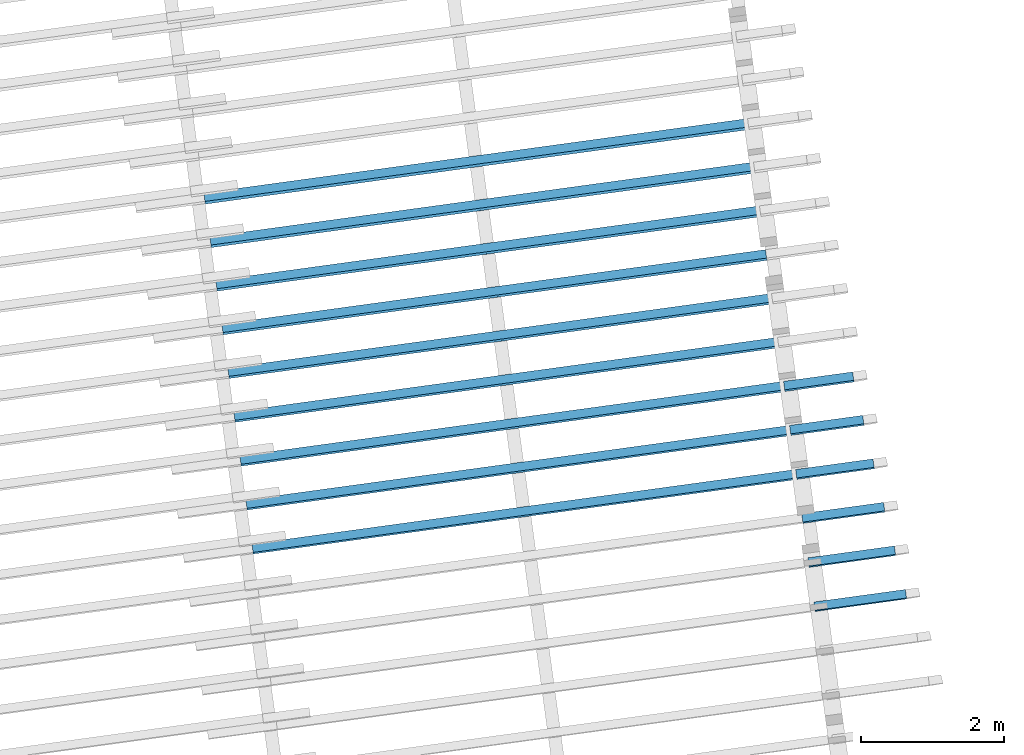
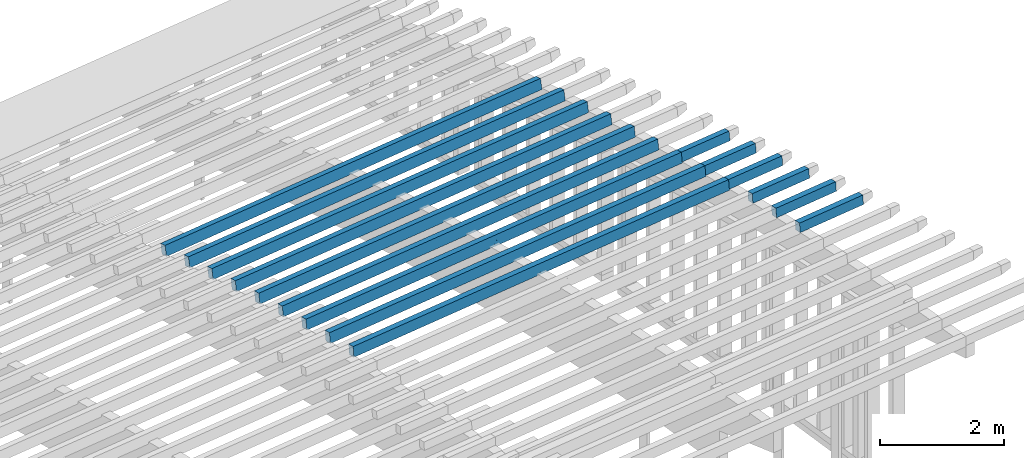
# One storey, part 12 of 18: 15 building element parts, 12 elements without a shape of their own.
"""IFC2X3 building model written with IfcOpenShell, lengths in metres."""

from ifc_helpers import new_model, entity, si_unit, converted_unit, derived_unit, money_unit, direction, frame, origin_with_axes, place, context, subcontext, project, spatial, faceted_brep, material, type_object, element, aggregate, save


model = new_model("IFC2X3")

# Units and contexts
model_context = context("Model", 3, precision=1e-05, world=origin_with_axes(), true_north=direction((0.0, 1.0)))
body_context = subcontext(model_context, "Body", "Model", "MODEL_VIEW")
ifc_project = project(units=[si_unit("LENGTHUNIT", "METRE"), si_unit("AREAUNIT", "SQUARE_METRE"), si_unit("VOLUMEUNIT", "CUBIC_METRE"), converted_unit("PLANEANGLEUNIT", "DEGREE", entity("IfcPlaneAngleMeasure", 0.0174532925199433), si_unit("PLANEANGLEUNIT", "RADIAN"), dimensions=[0, 0, 0, 0, 0, 0, 0]), money_unit("EUR"), converted_unit("TIMEUNIT", "Year", entity("IfcTimeMeasure", 31557600.0), si_unit("TIMEUNIT", "SECOND"), dimensions=[0, 0, 1, 0, 0, 0, 0]), si_unit("MASSUNIT", "GRAM", prefix="KILO"), si_unit("THERMODYNAMICTEMPERATUREUNIT", "DEGREE_CELSIUS"), si_unit("LUMINOUSINTENSITYUNIT", "LUMEN"), si_unit("ENERGYUNIT", "JOULE", prefix="MEGA"), derived_unit("THERMALCONDUCTANCEUNIT", [(si_unit("POWERUNIT", "WATT"), 1), (si_unit("LENGTHUNIT", "METRE"), -1), (si_unit("THERMODYNAMICTEMPERATUREUNIT", "KELVIN"), -1)]), derived_unit("SPECIFICHEATCAPACITYUNIT", [(si_unit("ENERGYUNIT", "JOULE"), 1), (si_unit("MASSUNIT", "GRAM", prefix="KILO"), -1), (si_unit("THERMODYNAMICTEMPERATUREUNIT", "KELVIN"), -1)]), derived_unit("MASSDENSITYUNIT", [(si_unit("MASSUNIT", "GRAM", prefix="KILO"), 1), (si_unit("VOLUMEUNIT", "CUBIC_METRE"), -1)])], contexts=[model_context])

# Site, building, storey
site_placement = place(None, origin_with_axes())
site = spatial("IfcSite", under=ifc_project, at=site_placement, Name="Gelände", CompositionType="ELEMENT")
building_placement = place(site_placement, origin_with_axes())
building = spatial("IfcBuilding", under=site, at=building_placement, Name="Gebäude", CompositionType="ELEMENT")
storey_placement = place(building_placement, frame((0.0, 0.0, 5.5), z_axis=(0.0, 0.0, 1.0), x_axis=(1.0, 0.0, 0.0)))
storey = spatial("IfcBuildingStorey", under=building, at=storey_placement, Name="OG", CompositionType="ELEMENT", Elevation=5.5)

# Beam, building element part
beam_type_1 = type_object("IfcBeamType", Name="Verschiedene Strukturen - 4 Segmente - 120 x 200 x 10110 (970+7659+1291+190)", PredefinedType="NOTDEFINED")
beam_1_placement = place(storey_placement, frame((104.7196111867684, -145.7532908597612, 4.791438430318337), z_axis=(0.0, 0.0, 1.0), x_axis=(0.13571118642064, -0.9907484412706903, 0.0)))
beam_1 = element("IfcBeam", 1, at=beam_1_placement, inside=storey, type_object=beam_type_1, Name="Unterzug-031")
ifc_material = material(Name="Bauholz")
building_element_part_1_placement = place(beam_1_placement, origin_with_axes())
building_element_part_1 = element("IfcBuildingElementPart", 2, at=building_element_part_1_placement, material=ifc_material, Name="Bauholz", context=body_context, shape_type="Brep", body=[
    faceted_brep([(0.0742730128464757, 9.91993509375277, -0.1745953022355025), (0.07427301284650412, 8.62917108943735, -0.1745953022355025), (-0.04533877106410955, 8.62917108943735, -0.1842400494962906), (-0.04533877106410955, 9.91993509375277, -0.1842400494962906), (0.05980589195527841, 9.91993509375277, 0.004822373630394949), (0.05980589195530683, 8.629171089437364, 0.004822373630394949), (-0.05980589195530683, 8.62917108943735, -0.004822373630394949), (-0.05980589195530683, 9.919935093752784, -0.004822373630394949)], [[[0, 1, 2, 3]], [[4, 5, 1, 0]], [[1, 5, 6, 2]], [[3, 2, 6, 7]], [[7, 4, 0, 3]], [[7, 6, 5, 4]]]),
])
aggregate(beam_1, [building_element_part_1])

beam_type_2 = type_object("IfcBeamType", Name="Verschiedene Strukturen - 4 Segmente - 120 x 200 x 10040 (970+7659+1220+190)", PredefinedType="NOTDEFINED")
beam_2_placement = place(storey_placement, frame((104.6350613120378, -145.1360413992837, 4.738673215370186), z_axis=(0.0, 0.0, 1.0), x_axis=(0.1357111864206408, -0.9907484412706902, 0.0)))
beam_2 = element("IfcBeam", 3, at=beam_2_placement, inside=storey, type_object=beam_type_2, Name="Unterzug-031")
building_element_part_2_placement = place(beam_2_placement, origin_with_axes())
building_element_part_2 = element("IfcBuildingElementPart", 4, at=building_element_part_2_placement, material=ifc_material, Name="Bauholz", context=body_context, shape_type="Brep", body=[
    faceted_brep([(0.07579379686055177, 8.62917495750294, -0.173940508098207), (-0.04372926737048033, 8.62917495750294, -0.1846286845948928), (-0.04372926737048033, 9.849566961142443, -0.1846286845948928), (0.07579379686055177, 9.849566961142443, -0.173940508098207), (0.05976153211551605, 8.62917495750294, 0.005344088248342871), (-0.05976153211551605, 8.62917495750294, -0.005344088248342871), (-0.05976153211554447, 9.849566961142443, -0.005344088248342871), (0.05976153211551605, 9.849566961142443, 0.005344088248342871)], [[[0, 1, 2, 3]], [[4, 5, 1, 0]], [[1, 5, 6, 2]], [[7, 3, 2, 6]], [[4, 0, 3, 7]], [[5, 4, 7, 6]]]),
])
aggregate(beam_2, [building_element_part_2])

beam_type_3 = type_object("IfcBeamType", Name="Verschiedene Strukturen - 4 Segmente - 120 x 200 x 9973 (970+7659+1153+190)", PredefinedType="NOTDEFINED")
beam_3_placement = place(storey_placement, frame((104.5505891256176, -144.5193590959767, 4.679531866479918), z_axis=(0.0, 0.0, 1.0), x_axis=(0.1357111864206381, -0.9907484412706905, 0.0)))
beam_3 = element("IfcBeam", 5, at=beam_3_placement, inside=storey, type_object=beam_type_3, Name="Unterzug-031")
building_element_part_3_placement = place(beam_3_placement, origin_with_axes())
building_element_part_3 = element("IfcBuildingElementPart", 6, at=building_element_part_3_placement, material=ifc_material, Name="Bauholz", context=body_context, shape_type="Brep", body=[
    faceted_brep([(0.07755066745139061, 8.629176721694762, -0.1731643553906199), (-0.04185807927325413, 8.629176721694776, -0.1850618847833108), (-0.04185807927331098, 9.782671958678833, -0.1850618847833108), (0.07755066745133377, 9.782671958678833, -0.1731643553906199), (0.05970437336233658, 8.629176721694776, 0.005948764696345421), (-0.05970437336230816, 8.629176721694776, -0.005948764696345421), (-0.05970437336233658, 9.782671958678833, -0.005948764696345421), (0.05970437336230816, 9.782671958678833, 0.005948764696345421)], [[[0, 1, 2, 3]], [[4, 5, 1, 0]], [[1, 5, 6, 2]], [[7, 3, 2, 6]], [[4, 0, 3, 7]], [[5, 4, 7, 6]]]),
])
aggregate(beam_3, [building_element_part_3])

# Beam, building element parts
beam_type_4 = type_object("IfcBeamType", Name="Verschiedene Strukturen - 4 Segmente - 120 x 200 x 9909 (970+7659+1090+190)", PredefinedType="NOTDEFINED")
beam_4_placement = place(storey_placement, frame((104.4662017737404, -143.9032961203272, 4.614089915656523), z_axis=(0.0, 0.0, 1.0), x_axis=(0.1357111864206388, -0.9907484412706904, 0.0)))
beam_4 = element("IfcBeam", 7, at=beam_4_placement, inside=storey, type_object=beam_type_4, Name="Unterzug-031")
building_element_part_4_placement = place(beam_4_placement, origin_with_axes())
building_element_part_4 = element("IfcBuildingElementPart", 8, at=building_element_part_4_placement, material=ifc_material, Name="Bauholz", context=body_context, shape_type="Brep", body=[
    faceted_brep([(-0.0420718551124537, 0.9699999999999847, -0.1656931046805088), (-0.04207211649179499, 1.451946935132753, -0.1656931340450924), (-0.0596296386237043, 1.451946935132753, -0.006659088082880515), (-0.05962937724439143, 0.9699999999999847, -0.006659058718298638), (-0.05963765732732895, 0.9699999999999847, -0.006584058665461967), (-0.05963792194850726, 4.732937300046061, -0.006584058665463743), (-0.04207993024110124, 4.732937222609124, -0.1656199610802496), (-0.04207992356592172, 4.852937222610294, -0.1656200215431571), (-0.05963739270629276, 4.852937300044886, -0.006584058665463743), (-0.05963765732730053, 8.62917672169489, -0.006584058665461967), (-0.03769079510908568, 8.62917672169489, -0.2053762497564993), (-0.03769079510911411, 0.9699999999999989, -0.2053762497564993), (-0.04175375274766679, 0.9699999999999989, -0.1656573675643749), (-0.04175375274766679, 1.451946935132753, -0.1656573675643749), (-0.05961653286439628, 1.451946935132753, -0.006657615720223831), (-0.05961653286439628, 0.9699999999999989, -0.006657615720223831), (0.08158451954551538, 0.9699999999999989, -0.1922081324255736), (0.05963765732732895, 0.9700000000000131, 0.006584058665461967), (0.05963792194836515, 4.852939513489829, 0.006584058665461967), (0.05963765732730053, 8.629176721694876, 0.006584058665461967), (0.05963739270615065, 4.732939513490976, 0.006584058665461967), (-0.04138156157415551, 4.732937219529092, -0.1655391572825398), (-0.04138103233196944, 4.852937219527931, -0.1655391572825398), (0.0815845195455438, 8.629176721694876, -0.1922081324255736), (0.07719537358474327, 4.852939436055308, -0.1524517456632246), (0.07719536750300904, 4.732939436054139, -0.1524516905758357), (0.07682466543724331, 4.852939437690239, -0.1524907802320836), (0.07682413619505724, 4.7329394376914, -0.1524907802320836)], [[[0, 1, 2, 3, 4, 5, 6, 7, 8, 9, 10, 11]], [[12, 13, 1, 0]], [[13, 14, 2, 1]], [[14, 15, 3, 2]], [[3, 15, 12, 0, 11, 16, 17, 4]], [[18, 19, 9, 8, 5, 4, 17, 20]], [[6, 5, 21]], [[6, 21, 22, 7]], [[8, 7, 22]], [[23, 10, 9, 19]], [[11, 10, 23, 16]], [[14, 13, 12, 15]], [[17, 16, 23, 19, 18, 24, 25, 20]], [[8, 22, 21, 5]], [[26, 18, 20, 27]], [[24, 18, 26]], [[26, 27, 25, 24]], [[20, 25, 27]]]),
])
building_element_part_5_placement = place(beam_4_placement, origin_with_axes())
building_element_part_5 = element("IfcBuildingElementPart", 9, at=building_element_part_5_placement, material=ifc_material, Name="Bauholz", context=body_context, shape_type="Brep", body=[
    faceted_brep([(0.07938983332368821, 8.62917672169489, -0.1723289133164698), (-0.0398854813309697, 8.62917672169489, -0.1854970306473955), (-0.03988548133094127, 9.719241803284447, -0.1854970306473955), (0.07938983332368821, 9.719241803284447, -0.1723289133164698), (0.05963765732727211, 8.62917672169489, 0.006584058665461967), (-0.05963765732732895, 8.62917672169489, -0.006584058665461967), (-0.05963765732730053, 9.719241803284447, -0.006584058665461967), (0.05963765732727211, 9.719241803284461, 0.006584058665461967)], [[[0, 1, 2, 3]], [[4, 5, 1, 0]], [[1, 5, 6, 2]], [[7, 3, 2, 6]], [[4, 0, 3, 7]], [[5, 4, 7, 6]]]),
])
aggregate(beam_4, [building_element_part_4, building_element_part_5])

beam_type_5 = type_object("IfcBeamType", Name="Verschiedene Strukturen - 4 Segmente - 120 x 200 x 9849 (970+7659+1030+190)", PredefinedType="NOTDEFINED")
beam_5_placement = place(storey_placement, frame((104.3819138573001, -143.2879590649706, 4.54227047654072), z_axis=(0.0, 0.0, 1.0), x_axis=(0.1357111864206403, -0.9907484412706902, 0.0)))
beam_5 = element("IfcBeam", 10, at=beam_5_placement, inside=storey, type_object=beam_type_5, Name="Unterzug-031")
building_element_part_6_placement = place(beam_5_placement, origin_with_axes())
building_element_part_6 = element("IfcBuildingElementPart", 11, at=building_element_part_6_placement, material=ifc_material, Name="Bauholz", context=body_context, shape_type="Brep", body=[
    faceted_brep([(-0.03568171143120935, 0.9699999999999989, -0.2057348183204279), (-0.04045859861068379, 0.9699999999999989, -0.1660283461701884), (-0.04045885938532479, 1.451946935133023, -0.1660283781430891), (-0.05957510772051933, 1.451946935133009, -0.007174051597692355), (-0.0595707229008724, 4.732937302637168, -0.007166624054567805), (-0.0404591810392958, 4.732937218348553, -0.1660235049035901), (-0.04045917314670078, 4.852937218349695, -0.1660235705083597), (-0.05957019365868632, 4.852937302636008, -0.007166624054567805), (-0.05957045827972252, 8.629176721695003, -0.007166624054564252), (-0.03568171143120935, 8.629176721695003, -0.2057348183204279), (0.05957045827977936, 0.9699999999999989, 0.007166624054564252), (-0.05957510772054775, 0.9700000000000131, -0.007174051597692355), (-0.04010373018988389, 0.9699999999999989, -0.1659848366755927), (0.08345920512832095, 0.9699999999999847, -0.1914015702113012), (-0.04010373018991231, 1.451946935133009, -0.1659848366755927), (0.05957019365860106, 4.732939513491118, 0.007166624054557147), (0.05957072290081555, 4.852939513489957, 0.007166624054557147), (0.05957045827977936, 8.629176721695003, 0.007166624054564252), (-0.03972781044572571, 4.732937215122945, -0.165931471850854), (-0.03972728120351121, 4.852937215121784, -0.165931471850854), (0.08345920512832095, 8.629176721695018, -0.1914015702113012), (0.07868165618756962, 4.852939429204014, -0.1516895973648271), (0.07868164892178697, 4.732939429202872, -0.1516895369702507), (0.07839193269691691, 4.852939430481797, -0.1517231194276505), (0.07839140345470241, 4.732939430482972, -0.1517231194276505)], [[[0, 1, 2, 3, 4, 5, 6, 7, 8, 9]], [[10, 11, 12, 1, 0, 13]], [[12, 14, 2, 1]], [[2, 14, 3]], [[7, 4, 3, 11, 10, 15, 16, 17, 8]], [[5, 4, 18]], [[5, 18, 19, 6]], [[7, 6, 19]], [[20, 9, 8, 17]], [[0, 9, 20, 13]], [[3, 14, 12, 11]], [[10, 13, 20, 17, 16, 21, 22, 15]], [[7, 19, 18, 4]], [[23, 16, 15, 24]], [[21, 16, 23]], [[23, 24, 22, 21]], [[15, 22, 24]]]),
])
building_element_part_7_placement = place(beam_5_placement, origin_with_axes())
building_element_part_7 = element("IfcBuildingElementPart", 12, at=building_element_part_7_placement, material=ifc_material, Name="Bauholz", context=body_context, shape_type="Brep", body=[
    faceted_brep([(0.08107033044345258, 8.629176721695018, -0.1715447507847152), (-0.03807058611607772, 8.629176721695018, -0.1858779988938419), (-0.03807058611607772, 9.659267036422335, -0.1858779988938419), (0.08107033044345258, 9.659267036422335, -0.1715447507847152), (0.05957045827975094, 8.629176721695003, 0.007166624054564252), (-0.05957045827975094, 8.629176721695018, -0.007166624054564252), (-0.05957045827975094, 9.659267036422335, -0.007166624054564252), (0.05957045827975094, 9.659267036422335, 0.007166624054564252)], [[[0, 1, 2, 3]], [[4, 5, 1, 0]], [[1, 5, 6, 2]], [[7, 3, 2, 6]], [[4, 0, 3, 7]], [[5, 4, 7, 6]]]),
])
aggregate(beam_5, [building_element_part_6, building_element_part_7])

beam_type_6 = type_object("IfcBeamType", Name="Verschiedene Strukturen - 4 Segmente - 120 x 200 x 9793 (970+7659+974+190)", PredefinedType="NOTDEFINED")
beam_6_placement = place(storey_placement, frame((104.2977254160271, -142.6733482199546, 4.46423359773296), z_axis=(0.0, 0.0, 1.0), x_axis=(0.135711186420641, -0.9907484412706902, 0.0)))
beam_6 = element("IfcBeam", 13, at=beam_6_placement, inside=storey, type_object=beam_type_6, Name="Unterzug-031")
building_element_part_8_placement = place(beam_6_placement, origin_with_axes())
building_element_part_8 = element("IfcBuildingElementPart", 14, at=building_element_part_8_placement, material=ifc_material, Name="Bauholz", context=body_context, shape_type="Brep", body=[
    faceted_brep([(-0.0335253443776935, 0.9699999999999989, -0.2060971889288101), (-0.03872322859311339, 0.9700000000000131, -0.1664012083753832), (-0.03872348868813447, 1.451946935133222, -0.1664012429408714), (-0.05950261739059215, 1.451946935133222, -0.007755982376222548), (-0.05949240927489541, 4.732937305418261, -0.007790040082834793), (-0.03871846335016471, 4.732937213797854, -0.1664376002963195), (-0.03871845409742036, 4.852937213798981, -0.1664376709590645), (-0.05949188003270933, 4.8529373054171, -0.007790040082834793), (-0.05949214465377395, 8.629176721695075, -0.00779004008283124), (-0.03352534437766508, 8.629176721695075, -0.2060971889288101), (0.05949214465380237, 0.9700000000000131, 0.00779004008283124), (-0.05950261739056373, 0.9699999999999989, -0.007755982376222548), (-0.03842463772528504, 0.9700000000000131, -0.1663615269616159), (0.08545894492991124, 0.9700000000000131, -0.1905171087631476), (-0.03842463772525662, 1.451946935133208, -0.1663615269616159), (-0.03808081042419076, 4.732937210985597, -0.1663509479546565), (-0.03808028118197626, 4.852937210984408, -0.1663509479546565), (0.05949214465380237, 8.629176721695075, 0.00779004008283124), (0.08545894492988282, 8.629176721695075, -0.1905171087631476), (0.0802658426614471, 4.732939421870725, -0.1508576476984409), (0.05949188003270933, 4.732939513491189, 0.00779004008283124), (0.05949240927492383, 4.852939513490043, 0.00779004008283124), (0.08026585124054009, 4.852939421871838, -0.1508577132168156), (0.07989896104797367, 4.732939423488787, -0.150903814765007), (0.07989949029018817, 4.852939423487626, -0.150903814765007)], [[[0, 1, 2, 3, 4, 5, 6, 7, 8, 9]], [[10, 11, 12, 1, 0, 13]], [[12, 14, 2, 1]], [[2, 14, 3]], [[10, 4, 3]], [[4, 15, 5]], [[16, 6, 5, 15]], [[6, 16, 7]], [[10, 8, 7]], [[8, 17, 18, 9]], [[18, 13, 0, 9]], [[10, 3, 11]], [[3, 14, 12, 11]], [[19, 20, 10, 13, 18, 17, 21, 22]], [[10, 7, 4]], [[15, 4, 7, 16]], [[8, 10, 20]], [[8, 21, 17]], [[19, 23, 20]], [[21, 24, 22]], [[19, 22, 24, 23]], [[8, 20, 21]], [[20, 23, 24, 21]]]),
])
building_element_part_9_placement = place(beam_6_placement, origin_with_axes())
building_element_part_9 = element("IfcBuildingElementPart", 15, at=building_element_part_9_placement, material=ifc_material, Name="Bauholz", context=body_context, shape_type="Brep", body=[
    faceted_brep([(0.08286226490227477, 8.629176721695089, -0.1706863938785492), (-0.03612202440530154, 8.629176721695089, -0.1862664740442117), (-0.03612202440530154, 9.602737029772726, -0.1862664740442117), (0.08286226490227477, 9.60273702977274, -0.1706863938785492), (0.05949214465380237, 8.629176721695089, 0.00779004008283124), (-0.05949214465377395, 8.629176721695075, -0.00779004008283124), (-0.05949214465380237, 9.602737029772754, -0.00779004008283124), (0.05949214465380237, 9.602737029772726, 0.00779004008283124)], [[[0, 1, 2, 3]], [[4, 5, 1, 0]], [[1, 5, 6, 2]], [[7, 3, 2, 6]], [[4, 0, 3, 7]], [[5, 4, 7, 6]]]),
])
aggregate(beam_6, [building_element_part_8, building_element_part_9])

# Beam, building element part
beam_type_7 = type_object("IfcBeamType", Name="Verschiedene Strukturen - 4 Segmente - 120 x 200 x 9740 (970+7659+920+190)", PredefinedType="NOTDEFINED")
beam_7_placement = place(storey_placement, frame((104.2136436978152, -142.0595164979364, 4.380047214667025), z_axis=(0.0, 0.0, 1.0), x_axis=(0.13571118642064, -0.9907484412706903, 0.0)))
beam_7 = element("IfcBeam", 16, at=beam_7_placement, inside=storey, type_object=beam_type_7, Name="Unterzug-031")
building_element_part_10_placement = place(beam_7_placement, origin_with_axes())
building_element_part_10 = element("IfcBuildingElementPart", 17, at=building_element_part_10_placement, material=ifc_material, Name="Bauholz", context=body_context, shape_type="Brep", body=[
    faceted_brep([(-0.03710455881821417, 0.9700000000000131, -0.1669043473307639), (-0.03710481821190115, 1.451946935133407, -0.1669043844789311), (-0.0594002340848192, 1.451946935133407, -0.008464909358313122), (-0.05939997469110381, 0.9700000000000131, -0.00846487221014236), (-0.05941462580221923, 0.9700000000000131, -0.008360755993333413), (-0.05941489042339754, 4.732937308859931, -0.008360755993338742), (-0.03711890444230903, 4.732937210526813, -0.1668024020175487), (-0.03711889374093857, 4.852937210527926, -0.1668024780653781), (-0.05941436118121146, 4.85293730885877, -0.008360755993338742), (-0.05941462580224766, 8.629176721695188, -0.008360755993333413), (-0.03154543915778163, 8.629176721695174, -0.2064095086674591), (-0.03154543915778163, 0.9700000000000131, -0.2064095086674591), (-0.03670648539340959, 0.9700000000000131, -0.1668473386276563), (-0.03670648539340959, 1.451946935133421, -0.1668473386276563), (-0.05938890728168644, 1.451946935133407, -0.008463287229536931), (-0.05938890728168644, 0.9700000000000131, -0.008463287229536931), (0.08728381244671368, 0.9700000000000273, -0.1896879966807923), (0.05941462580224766, 0.9700000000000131, 0.008360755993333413), (0.05941489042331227, 4.852939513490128, 0.008360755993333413), (0.05941462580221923, 8.629176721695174, 0.008360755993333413), (0.05941436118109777, 4.732939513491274, 0.008360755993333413), (-0.03633106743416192, 4.73293720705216, -0.1666868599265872), (-0.03633053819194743, 4.852937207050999, -0.1666868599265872), (0.08728381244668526, 8.629176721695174, -0.1896879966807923), (0.08171023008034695, 4.852939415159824, -0.1500800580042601), (0.08171022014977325, 4.732939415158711, -0.1500799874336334), (0.08138992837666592, 4.852939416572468, -0.1501235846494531), (0.08138939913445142, 4.732939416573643, -0.1501235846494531)], [[[0, 1, 2, 3, 4, 5, 6, 7, 8, 9, 10, 11]], [[12, 13, 1, 0]], [[13, 14, 2, 1]], [[14, 15, 3, 2]], [[3, 15, 12, 0, 11, 16, 17, 4]], [[18, 19, 9, 8, 5, 4, 17, 20]], [[6, 5, 21]], [[6, 21, 22, 7]], [[8, 7, 22]], [[23, 10, 9, 19]], [[11, 10, 23, 16]], [[14, 13, 12, 15]], [[17, 16, 23, 19, 18, 24, 25, 20]], [[8, 22, 21, 5]], [[26, 18, 20, 27]], [[24, 18, 26]], [[26, 27, 25, 24]], [[20, 25, 27]]]),
])
aggregate(beam_7, [building_element_part_10])

beam_type_8 = type_object("IfcBeamType", Name="Verschiedene Strukturen - 4 Segmente - 120 x 200 x 9690 (970+7659+871+190)", PredefinedType="NOTDEFINED")
beam_8_placement = place(storey_placement, frame((104.1296893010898, -141.4466142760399, 4.289462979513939), z_axis=(0.0, 0.0, 1.0), x_axis=(0.1357111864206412, -0.9907484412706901, 0.0)))
beam_8 = element("IfcBeam", 18, at=beam_8_placement, inside=storey, type_object=beam_type_8, Name="Unterzug-031")
building_element_part_11_placement = place(beam_8_placement, origin_with_axes())
building_element_part_11 = element("IfcBuildingElementPart", 19, at=building_element_part_11_placement, material=ifc_material, Name="Bauholz", context=body_context, shape_type="Brep", body=[
    faceted_brep([(-0.03554765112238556, 0.9700000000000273, -0.1672635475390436), (-0.03554790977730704, 1.451946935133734, -0.1672635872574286), (-0.05901728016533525, 1.451946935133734, -0.0110251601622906), (-0.05900512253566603, 0.9700000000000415, -0.01110433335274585), (-0.0593343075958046, 0.9700000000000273, -0.008912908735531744), (-0.05933457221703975, 4.73293731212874, -0.008912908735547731), (-0.0355660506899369, 4.732937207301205, -0.1671410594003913), (-0.03556603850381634, 4.852937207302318, -0.1671411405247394), (-0.05933404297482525, 4.85293731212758, -0.008912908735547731), (-0.0593343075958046, 8.62917672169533, -0.008912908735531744), (-0.02962461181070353, 8.62917672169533, -0.2066939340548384), (-0.02962461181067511, 0.9700000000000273, -0.2066939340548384), (-0.03503774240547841, 0.9699999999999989, -0.1671852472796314), (-0.03503774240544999, 1.451946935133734, -0.1671852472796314), (0.08904400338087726, 0.9700000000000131, -0.1888681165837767), (0.0593343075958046, 0.9700000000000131, 0.008912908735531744), (0.05933404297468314, 4.732939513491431, 0.008912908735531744), (0.05933457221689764, 4.85293951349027, 0.008912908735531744), (0.05933430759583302, 8.62917672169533, 0.008912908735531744), (-0.03466730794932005, 4.732937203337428, -0.1670000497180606), (-0.03466677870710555, 4.852937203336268, -0.1670000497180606), (0.08904400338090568, 8.62917672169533, -0.1888681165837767), (0.08310220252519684, 4.732939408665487, -0.1493128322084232), (0.08310221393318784, 4.852939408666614, -0.1493129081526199), (0.08298046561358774, 4.732939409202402, -0.1493306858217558), (0.08298099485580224, 4.852939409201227, -0.1493306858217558)], [[[0, 1, 2, 3, 4, 5, 6, 7, 8, 9, 10, 11]], [[12, 13, 1, 0]], [[1, 13, 2]], [[13, 12, 3, 2]], [[4, 3, 12, 0, 11, 14, 15]], [[15, 16, 17, 18, 9, 8, 5, 4]], [[5, 19, 6]], [[20, 7, 6, 19]], [[7, 20, 8]], [[9, 18, 21, 10]], [[21, 14, 11, 10]], [[22, 16, 15, 14, 21, 18, 17, 23]], [[16, 24, 25, 17]], [[19, 5, 8, 20]], [[22, 24, 16]], [[17, 25, 23]], [[22, 23, 25, 24]]]),
])
aggregate(beam_8, [building_element_part_11])

beam_type_9 = type_object("IfcBeamType", Name="Verschiedene Strukturen - 4 Segmente - 120 x 200 x 9644 (970+7659+825+190)", PredefinedType="NOTDEFINED")
beam_9_placement = place(storey_placement, frame((104.0458601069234, -140.834626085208, 4.19267556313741), z_axis=(0.0, 0.0, 1.0), x_axis=(0.1357111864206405, -0.9907484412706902, 0.0)))
beam_9 = element("IfcBeam", 20, at=beam_9_placement, inside=storey, type_object=beam_type_9, Name="Unterzug-031")
building_element_part_12_placement = place(beam_9_placement, origin_with_axes())
building_element_part_12 = element("IfcBuildingElementPart", 21, at=building_element_part_12_placement, material=ifc_material, Name="Bauholz", context=body_context, shape_type="Brep", body=[
    faceted_brep([(-0.03371785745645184, 0.9699999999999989, -0.1676226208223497), (-0.03371811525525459, 1.451946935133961, -0.16762266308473), (-0.05873641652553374, 1.451946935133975, -0.01264088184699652), (-0.05871912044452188, 0.9699999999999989, -0.01274638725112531), (-0.0592331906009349, 0.9700000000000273, -0.009561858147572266), (-0.05923345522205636, 4.732937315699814, -0.00956185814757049), (-0.03373450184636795, 4.732937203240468, -0.167519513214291), (-0.03373448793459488, 4.852937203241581, -0.1675195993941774), (-0.05923292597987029, 4.852937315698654, -0.00956185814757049), (-0.05923319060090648, 8.629176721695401, -0.009561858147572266), (-0.02736033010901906, 8.629176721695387, -0.207005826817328), (-0.02736033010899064, 0.9700000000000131, -0.207005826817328), (-0.03333957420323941, 0.9700000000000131, -0.1675606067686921), (-0.03333957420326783, 1.451946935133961, -0.1675606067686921), (0.09110605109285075, 0.9700000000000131, -0.1878821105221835), (0.05923319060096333, 0.9699999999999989, 0.009561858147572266), (0.05923292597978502, 4.732939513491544, 0.009561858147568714), (0.05923345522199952, 4.852939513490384, 0.009561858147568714), (0.0592331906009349, 8.629176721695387, 0.009561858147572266), (-0.03297535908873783, 4.732937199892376, -0.1673925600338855), (-0.03297482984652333, 4.852937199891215, -0.1673925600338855), (0.09110605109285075, 8.629176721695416, -0.1878821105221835), (0.08473172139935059, 4.732939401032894, -0.1483948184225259), (0.08473173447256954, 4.852939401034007, -0.1483948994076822), (0.08446193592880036, 4.73293940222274, -0.1484371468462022), (0.08446246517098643, 4.85293940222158, -0.1484371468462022)], [[[0, 1, 2, 3, 4, 5, 6, 7, 8, 9, 10, 11]], [[12, 13, 1, 0]], [[1, 13, 2]], [[13, 12, 3, 2]], [[4, 3, 12, 0, 11, 14, 15]], [[15, 16, 17, 18, 9, 8, 5, 4]], [[5, 19, 6]], [[20, 7, 6, 19]], [[7, 20, 8]], [[9, 18, 21, 10]], [[21, 14, 11, 10]], [[22, 16, 15, 14, 21, 18, 17, 23]], [[16, 24, 25, 17]], [[19, 5, 8, 20]], [[22, 24, 16]], [[17, 25, 23]], [[22, 23, 25, 24]]]),
])
aggregate(beam_9, [building_element_part_12])

beam_type_10 = type_object("IfcBeamType", Name="Verschiedene Strukturen - 4 Segmente - 120 x 200 x 9601 (970+7659+782+190)", PredefinedType="NOTDEFINED")
beam_10_placement = place(storey_placement, frame((103.9621682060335, -140.223640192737, 4.089610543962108), z_axis=(0.0, 0.0, 1.0), x_axis=(0.1357111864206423, -0.99074844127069, 0.0)))
beam_10 = element("IfcBeam", 22, at=beam_10_placement, inside=storey, type_object=beam_type_10, Name="Unterzug-031")
building_element_part_13_placement = place(beam_10_placement, origin_with_axes())
building_element_part_13 = element("IfcBuildingElementPart", 23, at=building_element_part_13_placement, material=ifc_material, Name="Bauholz", context=body_context, shape_type="Brep", body=[
    faceted_brep([(-0.03200319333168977, 0.9699999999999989, -0.1679527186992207), (-0.03200345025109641, 1.451946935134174, -0.1679527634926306), (-0.05885494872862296, 1.451946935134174, -0.01178179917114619), (-0.05883581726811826, 0.9700000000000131, -0.01189153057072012), (-0.05913232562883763, 0.9699999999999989, -0.01016700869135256), (-0.05913259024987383, 4.732937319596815, -0.01016700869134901), (-0.03201988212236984, 4.732937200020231, -0.1678556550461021), (-0.0320198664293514, 4.852937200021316, -0.1678557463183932), (-0.05913206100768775, 4.85293731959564, -0.01016700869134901), (-0.05913232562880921, 8.629193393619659, -0.01016700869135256), (-0.02524229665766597, 8.629193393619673, -0.2072747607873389), (-0.02524229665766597, 0.9700000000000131, -0.2072747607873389), (-0.0316379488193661, 0.9699999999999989, -0.1678890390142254), (-0.0316379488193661, 1.451946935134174, -0.1678890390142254), (0.09302235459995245, 0.9699999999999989, -0.1869407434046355), (0.05913232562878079, 0.9699999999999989, 0.01016700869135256), (0.05913206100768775, 4.732939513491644, 0.01016700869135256), (0.05913259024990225, 4.852939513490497, 0.01016700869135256), (0.05913232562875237, 8.629193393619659, 0.01016700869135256), (-0.03126714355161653, 4.732937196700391, -0.1677218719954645), (-0.03126661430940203, 4.852937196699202, -0.1677218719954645), (0.09302235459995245, 8.629193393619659, -0.1869407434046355), (0.08624462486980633, 4.732939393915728, -0.1475207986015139), (0.08624463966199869, 4.852939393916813, -0.147520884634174), (0.08595098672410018, 4.732939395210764, -0.1475699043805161), (0.08595151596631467, 4.852939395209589, -0.1475699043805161)], [[[0, 1, 2, 3, 4, 5, 6, 7, 8, 9, 10, 11]], [[12, 13, 1, 0]], [[1, 13, 2]], [[13, 12, 3, 2]], [[4, 3, 12, 0, 11, 14, 15]], [[15, 16, 17, 18, 9, 8, 5, 4]], [[5, 19, 6]], [[20, 7, 6, 19]], [[7, 20, 8]], [[9, 18, 21, 10]], [[21, 14, 11, 10]], [[22, 16, 15, 14, 21, 18, 17, 23]], [[16, 24, 25, 17]], [[19, 5, 8, 20]], [[22, 24, 16]], [[17, 25, 23]], [[22, 23, 25, 24]]]),
])
aggregate(beam_10, [building_element_part_13])

beam_type_11 = type_object("IfcBeamType", Name="Verschiedene Strukturen - 4 Segmente - 120 x 200 x 9561 (970+7659+742+190)", PredefinedType="NOTDEFINED")
beam_11_placement = place(storey_placement, frame((103.8786249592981, -139.6137395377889, 3.980241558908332), z_axis=(0.0, 0.0, 1.0), x_axis=(0.1357111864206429, -0.99074844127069, 0.0)))
beam_11 = element("IfcBeam", 24, at=beam_11_placement, inside=storey, type_object=beam_type_11, Name="Unterzug-031")
building_element_part_14_placement = place(beam_11_placement, origin_with_axes())
building_element_part_14 = element("IfcBuildingElementPart", 25, at=building_element_part_14_placement, material=ifc_material, Name="Bauholz", context=body_context, shape_type="Brep", body=[
    faceted_brep([(-0.02304686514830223, 0.9699999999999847, -0.2075303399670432), (-0.03024104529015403, 0.9699999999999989, -0.1681867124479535), (-0.03024130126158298, 1.451946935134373, -0.1681867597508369), (-0.05902886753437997, 1.451946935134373, -0.01079755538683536), (-0.05902165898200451, 4.732937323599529, -0.01079235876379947), (-0.03024141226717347, 4.732937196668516, -0.1681847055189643), (-0.03024139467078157, 4.8529371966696, -0.1681848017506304), (-0.05902112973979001, 4.852937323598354, -0.01079235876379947), (-0.05902139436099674, 8.629193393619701, -0.01079235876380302), (-0.02304686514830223, 8.629193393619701, -0.2075303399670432), (0.05902139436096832, 0.9699999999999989, 0.01079235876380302), (-0.05902886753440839, 0.9699999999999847, -0.01079755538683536), (-0.02995356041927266, 0.9699999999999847, -0.1681335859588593), (0.0949959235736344, 0.9699999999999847, -0.1859456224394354), (-0.02995356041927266, 1.451946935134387, -0.1681335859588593), (0.0590211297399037, 4.732939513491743, 0.01079235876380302), (0.0590216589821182, 4.852939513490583, 0.01079235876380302), (0.05902139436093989, 8.629193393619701, 0.01079235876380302), (-0.0295791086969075, 4.732937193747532, -0.1680601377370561), (-0.029578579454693, 4.852937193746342, -0.1680601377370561), (0.09499592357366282, 8.629193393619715, -0.1859456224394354), (0.08780138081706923, 4.852939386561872, -0.1466000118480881), (0.08780136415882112, 4.732939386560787, -0.1465999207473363), (0.08751635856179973, 4.852939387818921, -0.1466506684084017), (0.08751582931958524, 4.732939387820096, -0.1466506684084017)], [[[0, 1, 2, 3, 4, 5, 6, 7, 8, 9]], [[10, 11, 12, 1, 0, 13]], [[12, 14, 2, 1]], [[2, 14, 3]], [[7, 4, 3, 11, 10, 15, 16, 17, 8]], [[5, 4, 18]], [[5, 18, 19, 6]], [[7, 6, 19]], [[20, 9, 8, 17]], [[0, 9, 20, 13]], [[3, 14, 12, 11]], [[10, 13, 20, 17, 16, 21, 22, 15]], [[7, 19, 18, 4]], [[23, 16, 15, 24]], [[21, 16, 23]], [[23, 24, 22, 21]], [[15, 22, 24]]]),
])
aggregate(beam_11, [building_element_part_14])

beam_type_12 = type_object("IfcBeamType", Name="Verschiedene Strukturen - 4 Segmente - 120 x 200 x 9525 (970+7659+706+190)", PredefinedType="NOTDEFINED")
beam_12_placement = place(storey_placement, frame((103.7952358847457, -139.0049644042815, 3.864643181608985), z_axis=(0.0, 0.0, 1.0), x_axis=(0.1357111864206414, -0.9907484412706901, 0.0)))
beam_12 = element("IfcBeam", 26, at=beam_12_placement, inside=storey, type_object=beam_type_12, Name="Unterzug-031")
building_element_part_15_placement = place(beam_12_placement, origin_with_axes())
building_element_part_15 = element("IfcBuildingElementPart", 27, at=building_element_part_15_placement, material=ifc_material, Name="Bauholz", context=body_context, shape_type="Brep", body=[
    faceted_brep([(-0.02084886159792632, 8.629193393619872, -0.2077626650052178), (-0.02084886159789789, 0.9699999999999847, -0.2077626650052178), (-0.05890385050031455, 0.9699999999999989, -0.01141649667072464), (-0.05890411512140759, 4.732937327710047, -0.01141649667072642), (-0.02845960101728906, 4.732937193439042, -0.1684947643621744), (-0.02845958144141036, 4.852937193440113, -0.1684948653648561), (-0.05890358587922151, 4.852937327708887, -0.01141649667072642), (-0.05890385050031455, 8.629193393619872, -0.01141649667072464), (0.09695883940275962, 8.629193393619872, -0.1849296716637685), (0.09695883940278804, 0.9700000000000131, -0.1849296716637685), (0.05890385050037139, 0.9699999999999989, 0.01141649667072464), (0.05890385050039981, 4.792939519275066, 0.01141649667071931), (0.05890385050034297, 8.629193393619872, 0.01141649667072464), (0.05890358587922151, 4.732939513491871, 0.01141649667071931), (-0.02793298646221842, 4.732937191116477, -0.168390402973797), (-0.02793245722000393, 4.852937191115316, -0.168390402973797), (0.08927955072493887, 4.852939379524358, -0.1456758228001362), (0.08927902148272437, 4.732939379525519, -0.1456758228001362), (0.05901647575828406, 4.85293951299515, 0.0108354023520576)], [[[0, 1, 2, 3, 4, 5, 6, 7]], [[0, 8, 9, 1]], [[10, 2, 1, 9]], [[11, 12, 7, 6, 3, 2, 10, 13]], [[4, 3, 14]], [[4, 14, 15, 5]], [[6, 5, 15]], [[7, 12, 8, 0]], [[16, 9, 8]], [[17, 10, 9]], [[12, 11, 18, 8]], [[6, 15, 14, 3]], [[17, 13, 10]], [[11, 13, 17, 16, 18]], [[16, 17, 9]], [[8, 18, 16]]]),
])
aggregate(beam_12, [building_element_part_15])

save(model, "model.ifc")
